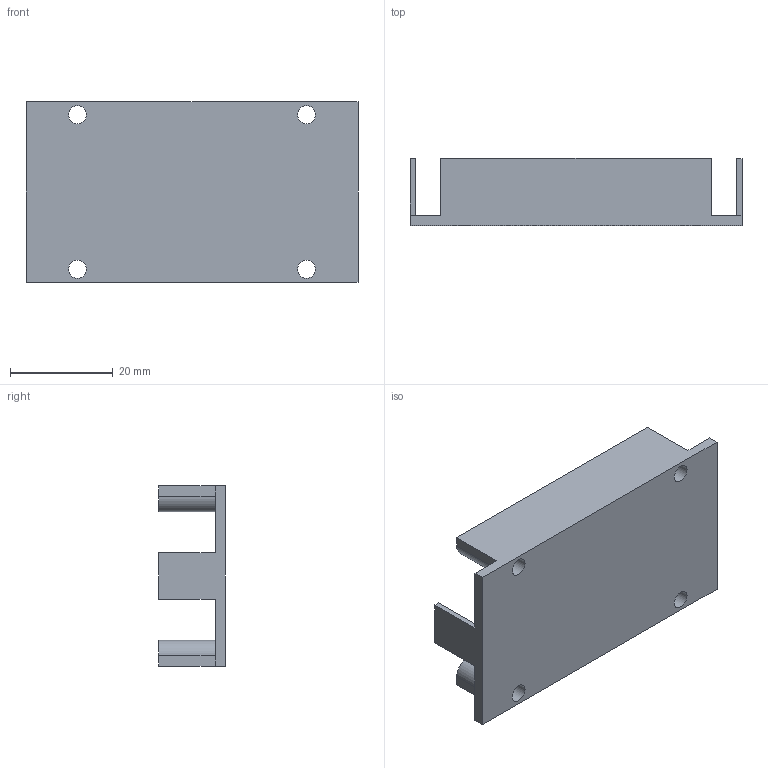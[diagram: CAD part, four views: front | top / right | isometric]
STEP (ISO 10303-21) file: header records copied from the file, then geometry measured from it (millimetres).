
FILE_DESCRIPTION(/* description */ (''),/* implementation_level */ '2;1');
FILE_NAME(/* name */ 'light_switch v9.step',/* time_stamp */ '2026-04-10T14:23:05+02:00',/* author */ (''),/* organization */ (''),/* preprocessor_version */ 'ST-DEVELOPER v20.1',/* originating_system */ 'Autodesk Translation Framework v14.24.0.0',/* authorisation */ '');
FILE_SCHEMA (('AUTOMOTIVE_DESIGN { 1 0 10303 214 3 1 1 }'));
Length unit declared in the file: millimetre
Products named in the file (1): (Niezapisany)
Bounding box: 64.5 x 13 x 35 mm (x, y, z)
Surface area: 8321.1 mm2 (no closed solid volume)
Topology: 0 solids, 1 shells, 30 faces, 84 edges, 56 vertices
Faces by surface type: plane 22, cylinder 8
Full cylindrical faces by diameter (mm): 3.5 x4
Entity records: 1011 total; most frequent: CARTESIAN_POINT 171, ORIENTED_EDGE 168, DIRECTION 162, EDGE_CURVE 84, LINE 68, VECTOR 68, VERTEX_POINT 56, AXIS2_PLACEMENT_3D 47
